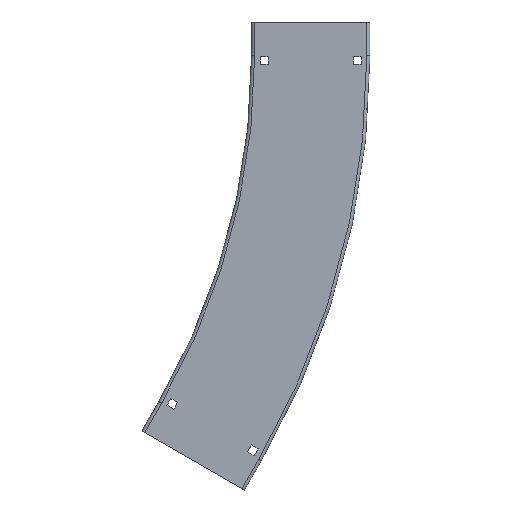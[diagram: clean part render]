
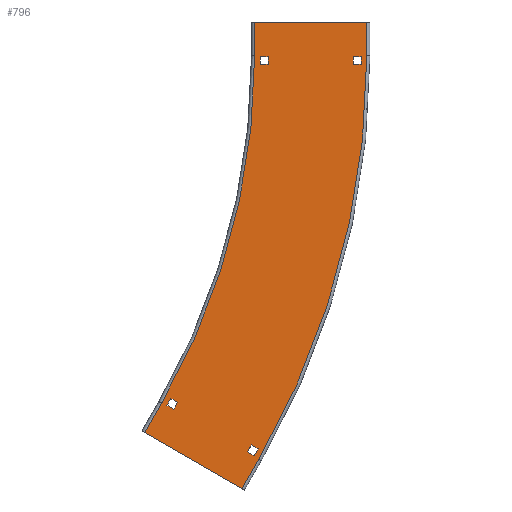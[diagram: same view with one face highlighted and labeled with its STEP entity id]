
A CAD part, left-side view. The second image highlights one B-rep face of the part: STEP entity #796.
In plain terms, the highlighted planar face has unit normal (-1, 0, 0).
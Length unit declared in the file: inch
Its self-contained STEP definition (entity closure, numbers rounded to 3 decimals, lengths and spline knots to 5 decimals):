
#1=DIRECTION('',(0.,-0.866,-0.5));
#2=VECTOR('',#1,5.838);
#3=CARTESIAN_POINT('',(0.,35.49807,22.51554));
#4=LINE('',#3,#2);
#5=DIRECTION('',(0.,1.,0.));
#6=VECTOR('',#5,5.838);
#7=CARTESIAN_POINT('',(0.,36.162,-1.75));
#8=LINE('',#7,#6);
#9=DIRECTION('',(0.,0.,-1.));
#10=VECTOR('',#9,0.41);
#11=CARTESIAN_POINT('',(0.,41.7035,0.455));
#12=LINE('',#11,#10);
#13=DIRECTION('',(0.,-1.,0.));
#14=VECTOR('',#13,0.41);
#15=CARTESIAN_POINT('',(0.,41.7035,0.045));
#16=LINE('',#15,#14);
#17=DIRECTION('',(0.,0.,1.));
#18=VECTOR('',#17,0.41);
#19=CARTESIAN_POINT('',(0.,41.2935,0.045));
#20=LINE('',#19,#18);
#21=DIRECTION('',(0.,1.,0.));
#22=VECTOR('',#21,0.41);
#23=CARTESIAN_POINT('',(0.,41.2935,0.455));
#24=LINE('',#23,#22);
#25=DIRECTION('',(0.,1.,0.));
#26=VECTOR('',#25,0.41);
#27=CARTESIAN_POINT('',(0.,36.4585,0.455));
#28=LINE('',#27,#26);
#29=DIRECTION('',(0.,0.,-1.));
#30=VECTOR('',#29,0.41);
#31=CARTESIAN_POINT('',(0.,36.8685,0.455));
#32=LINE('',#31,#30);
#33=DIRECTION('',(0.,-1.,0.));
#34=VECTOR('',#33,0.41);
#35=CARTESIAN_POINT('',(0.,36.8685,0.045));
#36=LINE('',#35,#34);
#37=DIRECTION('',(0.,0.,1.));
#38=VECTOR('',#37,0.41);
#39=CARTESIAN_POINT('',(0.,36.4585,0.045));
#40=LINE('',#39,#38);
#41=DIRECTION('',(0.,-0.866,-0.5));
#42=VECTOR('',#41,0.41);
#43=CARTESIAN_POINT('',(0.,32.15584,18.0398));
#44=LINE('',#43,#42);
#45=DIRECTION('',(0.,-0.5,0.866));
#46=VECTOR('',#45,0.41);
#47=CARTESIAN_POINT('',(0.,31.80077,17.8348));
#48=LINE('',#47,#46);
#49=DIRECTION('',(0.,0.866,0.5));
#50=VECTOR('',#49,0.41);
#51=CARTESIAN_POINT('',(0.,31.59577,18.18987));
#52=LINE('',#51,#50);
#53=DIRECTION('',(0.,0.5,-0.866));
#54=VECTOR('',#53,0.41);
#55=CARTESIAN_POINT('',(0.,31.95084,18.39487));
#56=LINE('',#55,#54);
#57=DIRECTION('',(0.,0.866,0.5));
#58=VECTOR('',#57,0.41);
#59=CARTESIAN_POINT('',(0.,35.78309,20.60741));
#60=LINE('',#59,#58);
#61=DIRECTION('',(0.,0.5,-0.866));
#62=VECTOR('',#61,0.41);
#63=CARTESIAN_POINT('',(0.,36.13816,20.81241));
#64=LINE('',#63,#62);
#65=DIRECTION('',(0.,-0.866,-0.5));
#66=VECTOR('',#65,0.41);
#67=CARTESIAN_POINT('',(0.,36.34316,20.45734));
#68=LINE('',#67,#66);
#69=DIRECTION('',(0.,-0.5,0.866));
#70=VECTOR('',#69,0.41);
#71=CARTESIAN_POINT('',(0.,35.98809,20.25234));
#72=LINE('',#71,#70);
#73=DIRECTION('',(0.,0.,1.));
#74=VECTOR('',#73,1.75);
#75=CARTESIAN_POINT('',(0.,42.,-1.75));
#76=LINE('',#75,#74);
#114=DIRECTION('',(0.,0.,-1.));
#115=VECTOR('',#114,1.75);
#116=CARTESIAN_POINT('',(0.,36.162,0.));
#117=LINE('',#116,#115);
#123=CARTESIAN_POINT('',(0.,0.,0.));
#124=DIRECTION('',(-1.,0.,0.));
#125=DIRECTION('',(0.,0.866,0.5));
#126=AXIS2_PLACEMENT_3D('',#123,#124,#125);
#128=DIRECTION('',(0.,0.5,-0.866));
#129=VECTOR('',#128,1.75);
#130=CARTESIAN_POINT('',(0.,30.44221,19.59654));
#131=LINE('',#130,#129);
#169=DIRECTION('',(0.,-0.5,0.866));
#170=VECTOR('',#169,1.75);
#171=CARTESIAN_POINT('',(0.,36.37307,21.));
#172=LINE('',#171,#170);
#178=CARTESIAN_POINT('',(0.,0.,0.));
#179=DIRECTION('',(1.,0.,0.));
#180=DIRECTION('',(0.,1.,0.));
#181=AXIS2_PLACEMENT_3D('',#178,#179,#180);
#573=CARTESIAN_POINT('',(0.,30.44221,19.59654));
#575=VERTEX_POINT('',#573);
#579=CARTESIAN_POINT('',(0.,31.31721,18.081));
#581=VERTEX_POINT('',#579);
#585=CARTESIAN_POINT('',(0.,36.162,0.));
#587=VERTEX_POINT('',#585);
#591=CARTESIAN_POINT('',(0.,36.162,-1.75));
#593=VERTEX_POINT('',#591);
#621=CARTESIAN_POINT('',(0.,42.,-1.75));
#622=VERTEX_POINT('',#621);
#623=CARTESIAN_POINT('',(0.,35.49807,22.51554));
#624=VERTEX_POINT('',#623);
#629=CARTESIAN_POINT('',(0.,42.,0.));
#631=VERTEX_POINT('',#629);
#635=CARTESIAN_POINT('',(0.,36.37307,21.));
#637=VERTEX_POINT('',#635);
#669=CARTESIAN_POINT('',(0.,41.7035,0.455));
#670=CARTESIAN_POINT('',(0.,41.7035,0.045));
#671=VERTEX_POINT('',#669);
#672=VERTEX_POINT('',#670);
#673=CARTESIAN_POINT('',(0.,41.2935,0.045));
#674=VERTEX_POINT('',#673);
#675=CARTESIAN_POINT('',(0.,41.2935,0.455));
#676=VERTEX_POINT('',#675);
#677=CARTESIAN_POINT('',(0.,36.4585,0.455));
#678=CARTESIAN_POINT('',(0.,36.8685,0.455));
#679=VERTEX_POINT('',#677);
#680=VERTEX_POINT('',#678);
#681=CARTESIAN_POINT('',(0.,36.8685,0.045));
#682=VERTEX_POINT('',#681);
#683=CARTESIAN_POINT('',(0.,36.4585,0.045));
#684=VERTEX_POINT('',#683);
#701=CARTESIAN_POINT('',(0.,32.15584,18.0398));
#702=CARTESIAN_POINT('',(0.,31.80077,17.8348));
#703=VERTEX_POINT('',#701);
#704=VERTEX_POINT('',#702);
#705=CARTESIAN_POINT('',(0.,31.59577,18.18987));
#706=VERTEX_POINT('',#705);
#707=CARTESIAN_POINT('',(0.,31.95084,18.39487));
#708=VERTEX_POINT('',#707);
#709=CARTESIAN_POINT('',(0.,35.78309,20.60741));
#710=CARTESIAN_POINT('',(0.,36.13816,20.81241));
#711=VERTEX_POINT('',#709);
#712=VERTEX_POINT('',#710);
#713=CARTESIAN_POINT('',(0.,36.34316,20.45734));
#714=VERTEX_POINT('',#713);
#715=CARTESIAN_POINT('',(0.,35.98809,20.25234));
#716=VERTEX_POINT('',#715);
#733=CARTESIAN_POINT('',(0.,0.,0.));
#734=DIRECTION('',(1.,0.,0.));
#735=DIRECTION('',(0.,0.,-1.));
#736=AXIS2_PLACEMENT_3D('',#733,#734,#735);
#737=PLANE('',#736);
#739=ORIENTED_EDGE('',*,*,#738,.T.);
#741=ORIENTED_EDGE('',*,*,#740,.T.);
#743=ORIENTED_EDGE('',*,*,#742,.T.);
#745=ORIENTED_EDGE('',*,*,#744,.T.);
#747=ORIENTED_EDGE('',*,*,#746,.T.);
#749=ORIENTED_EDGE('',*,*,#748,.T.);
#751=ORIENTED_EDGE('',*,*,#750,.T.);
#753=ORIENTED_EDGE('',*,*,#752,.T.);
#754=EDGE_LOOP('',(#739,#741,#743,#745,#747,#749,#751,#753));
#755=FACE_OUTER_BOUND('',#754,.F.);
#757=ORIENTED_EDGE('',*,*,#756,.T.);
#759=ORIENTED_EDGE('',*,*,#758,.T.);
#761=ORIENTED_EDGE('',*,*,#760,.T.);
#763=ORIENTED_EDGE('',*,*,#762,.T.);
#764=EDGE_LOOP('',(#757,#759,#761,#763));
#765=FACE_BOUND('',#764,.F.);
#767=ORIENTED_EDGE('',*,*,#766,.T.);
#769=ORIENTED_EDGE('',*,*,#768,.T.);
#771=ORIENTED_EDGE('',*,*,#770,.T.);
#773=ORIENTED_EDGE('',*,*,#772,.T.);
#774=EDGE_LOOP('',(#767,#769,#771,#773));
#775=FACE_BOUND('',#774,.F.);
#777=ORIENTED_EDGE('',*,*,#776,.T.);
#779=ORIENTED_EDGE('',*,*,#778,.T.);
#781=ORIENTED_EDGE('',*,*,#780,.T.);
#783=ORIENTED_EDGE('',*,*,#782,.T.);
#784=EDGE_LOOP('',(#777,#779,#781,#783));
#785=FACE_BOUND('',#784,.F.);
#787=ORIENTED_EDGE('',*,*,#786,.T.);
#789=ORIENTED_EDGE('',*,*,#788,.T.);
#791=ORIENTED_EDGE('',*,*,#790,.T.);
#793=ORIENTED_EDGE('',*,*,#792,.T.);
#794=EDGE_LOOP('',(#787,#789,#791,#793));
#795=FACE_BOUND('',#794,.F.);
#796=ADVANCED_FACE('',(#755,#765,#775,#785,#795),#737,.F.);
#127=CIRCLE('',#126,36.162);
#182=CIRCLE('',#181,42.);
#738=EDGE_CURVE('',#622,#631,#76,.T.);
#740=EDGE_CURVE('',#631,#637,#182,.T.);
#742=EDGE_CURVE('',#637,#624,#172,.T.);
#744=EDGE_CURVE('',#624,#575,#4,.T.);
#746=EDGE_CURVE('',#575,#581,#131,.T.);
#748=EDGE_CURVE('',#581,#587,#127,.T.);
#750=EDGE_CURVE('',#587,#593,#117,.T.);
#752=EDGE_CURVE('',#593,#622,#8,.T.);
#756=EDGE_CURVE('',#671,#672,#12,.T.);
#758=EDGE_CURVE('',#672,#674,#16,.T.);
#760=EDGE_CURVE('',#674,#676,#20,.T.);
#762=EDGE_CURVE('',#676,#671,#24,.T.);
#766=EDGE_CURVE('',#679,#680,#28,.T.);
#768=EDGE_CURVE('',#680,#682,#32,.T.);
#770=EDGE_CURVE('',#682,#684,#36,.T.);
#772=EDGE_CURVE('',#684,#679,#40,.T.);
#776=EDGE_CURVE('',#703,#704,#44,.T.);
#778=EDGE_CURVE('',#704,#706,#48,.T.);
#780=EDGE_CURVE('',#706,#708,#52,.T.);
#782=EDGE_CURVE('',#708,#703,#56,.T.);
#786=EDGE_CURVE('',#711,#712,#60,.T.);
#788=EDGE_CURVE('',#712,#714,#64,.T.);
#790=EDGE_CURVE('',#714,#716,#68,.T.);
#792=EDGE_CURVE('',#716,#711,#72,.T.);
